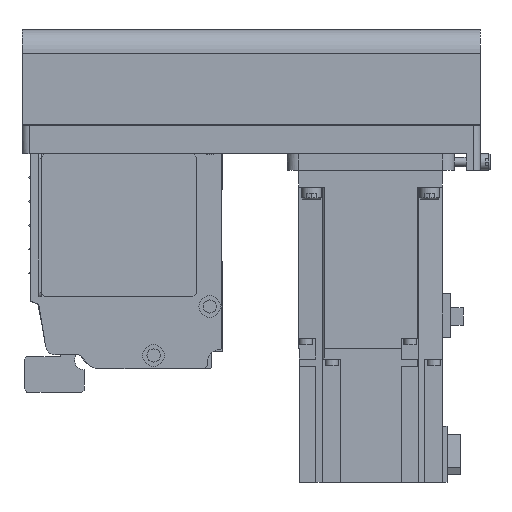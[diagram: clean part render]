
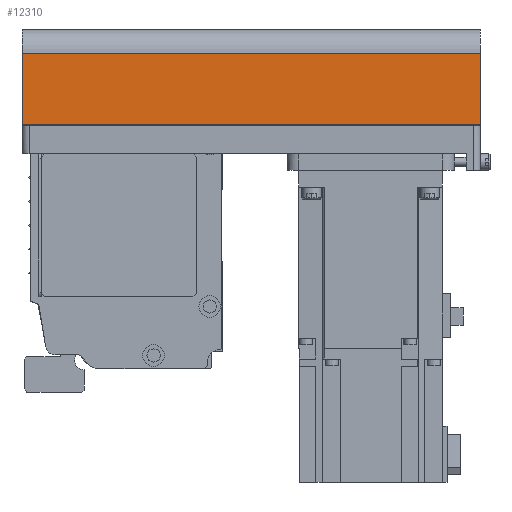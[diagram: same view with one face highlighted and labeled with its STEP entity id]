
A CAD part, left-side view. The second image highlights one B-rep face of the part: STEP entity #12310.
In plain terms, the highlighted planar face has unit normal (-1, 0, 0) as drawn and (0, -1, 0) by its records, which use the part's own axes.
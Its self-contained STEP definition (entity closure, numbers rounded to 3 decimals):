
#2219=ORIENTED_EDGE('',*,*,#4995,.F.);
#2220=ORIENTED_EDGE('',*,*,#4961,.F.);
#2221=ORIENTED_EDGE('',*,*,#4984,.T.);
#2222=ORIENTED_EDGE('',*,*,#5028,.T.);
#4961=EDGE_CURVE('',#6515,#6516,#7755,.T.);
#4984=EDGE_CURVE('',#6515,#6534,#7774,.T.);
#4995=EDGE_CURVE('',#6516,#6542,#7783,.T.);
#5028=EDGE_CURVE('',#6534,#6542,#7796,.T.);
#6515=VERTEX_POINT('',#19165);
#6516=VERTEX_POINT('',#19167);
#6534=VERTEX_POINT('',#19210);
#6542=VERTEX_POINT('',#19234);
#7755=LINE('',#19166,#8983);
#7774=LINE('',#19211,#9002);
#7783=LINE('',#19233,#9011);
#7796=LINE('',#19291,#9024);
#8983=VECTOR('',#15404,1000.);
#9002=VECTOR('',#15437,1000.);
#9011=VECTOR('',#15458,1000.);
#9024=VECTOR('',#15543,1000.);
#10080=EDGE_LOOP('',(#2219,#2220,#2221,#2222));
#10998=FACE_BOUND('',#10080,.T.);
#11747=PLANE('',#13269);
#12310=ADVANCED_FACE('',(#10998),#11747,.T.);
#13269=AXIS2_PLACEMENT_3D('',#19292,#15544,#15545);
#15404=DIRECTION('',(1.,0.,0.));
#15437=DIRECTION('',(0.,0.,-1.));
#15458=DIRECTION('',(0.,0.,-1.));
#15543=DIRECTION('',(1.,0.,0.));
#15544=DIRECTION('',(0.,-1.,0.));
#15545=DIRECTION('',(0.,0.,-1.));
#19165=CARTESIAN_POINT('',(-192.,-40.,-12.1));
#19166=CARTESIAN_POINT('',(-192.,-40.,-12.1));
#19167=CARTESIAN_POINT('',(0.,-40.,-12.1));
#19210=CARTESIAN_POINT('',(-192.,-40.,-42.));
#19211=CARTESIAN_POINT('',(-192.,-40.,-12.1));
#19233=CARTESIAN_POINT('',(0.,-40.,-12.1));
#19234=CARTESIAN_POINT('',(0.,-40.,-42.));
#19291=CARTESIAN_POINT('',(-192.,-40.,-42.));
#19292=CARTESIAN_POINT('',(-192.,-40.,-12.1));
